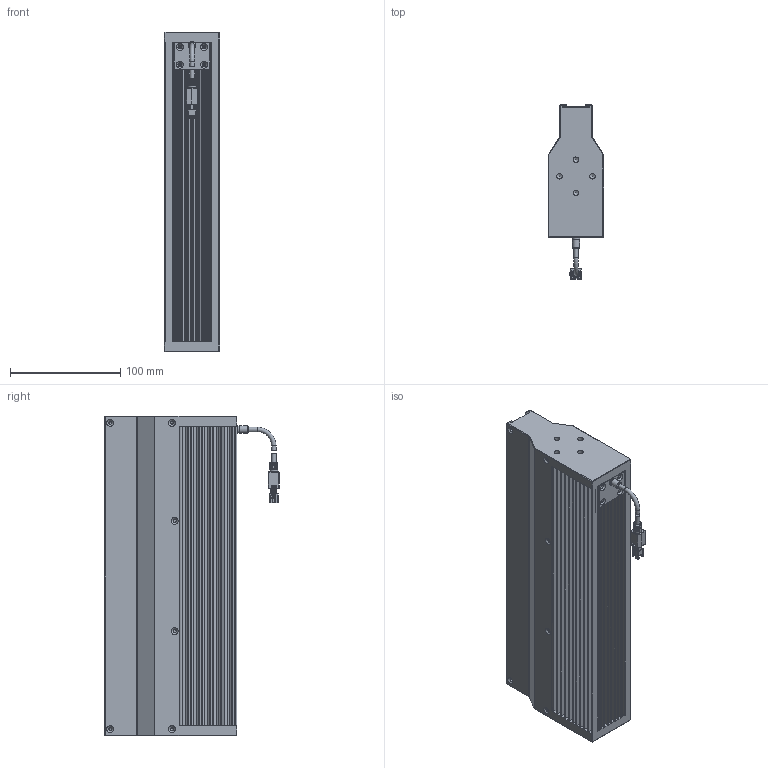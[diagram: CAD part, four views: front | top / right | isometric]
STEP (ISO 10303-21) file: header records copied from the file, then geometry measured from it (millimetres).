
FILE_DESCRIPTION (( 'STEP AP203' ), '1' );
FILE_NAME ('OPT-LSNL290-R-V1.0U尨砩芞.STEP', '2025-02-17T11:03:03', ( '' ), ( '' ), 'SwSTEP 2.0', 'SolidWorks 2016', '' );
FILE_SCHEMA (( 'CONFIG_CONTROL_DESIGN' ));
Length unit declared in the file: millimetre
Products named in the file (1): OPT-LSNL290-R-V1.0U尨砩芞
Bounding box: 50.02 x 158.44 x 290 mm (x, y, z)
Volume: 1065900.2 mm3; surface area: 361353.4 mm2
Topology: 9 solids, 15 shells, 996 faces, 2743 edges, 1763 vertices
Faces by surface type: plane 596, cylinder 327, cone 44, bspline 21, torus 8
Full cylindrical faces by diameter (mm): 1.1 x2, 1.4 x2, 2.5 x10, 3 x8, 3.4 x16, 3.5 x1, 4.1 x4, 5 x8, 5.8 x1, 6.5 x1, 7 x1, 7.5 x1
Entity records: 33878 total; most frequent: CARTESIAN_POINT 9612, ORIENTED_EDGE 5146, DIRECTION 4726, EDGE_CURVE 2573, VERTEX_POINT 1704, LINE 1666, VECTOR 1666, AXIS2_PLACEMENT_3D 1530
